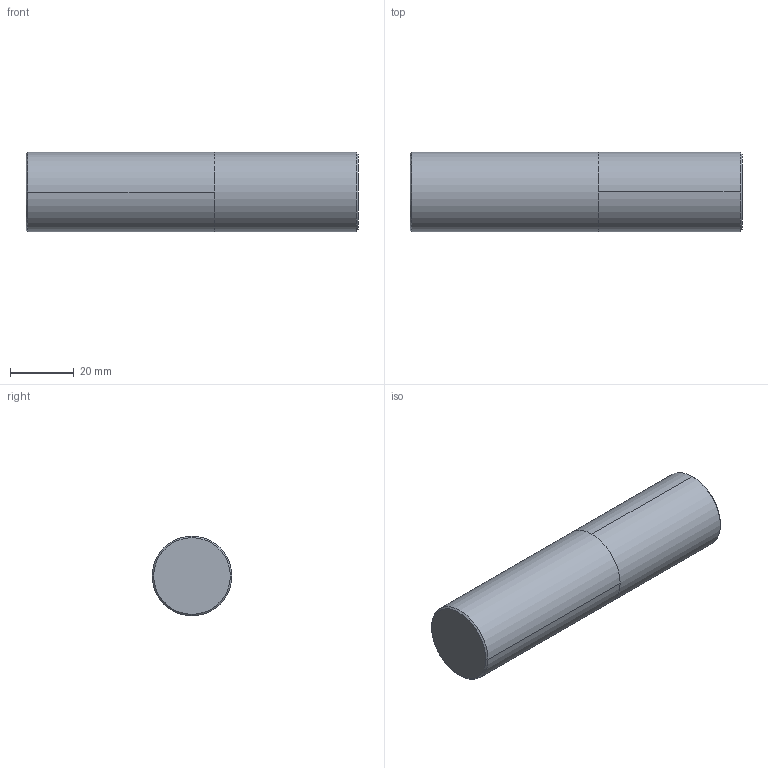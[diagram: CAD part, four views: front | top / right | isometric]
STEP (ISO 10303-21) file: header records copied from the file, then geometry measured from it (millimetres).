
FILE_DESCRIPTION (( 'STEP AP203' ), '1' );
FILE_NAME ('03-1561.STEP', '2021-10-18T01:58:27', ( 'USER' ), ( 'Hewlett-Packard Company' ), 'SwSTEP 2.0', 'SolidWorks 2014', '' );
FILE_SCHEMA (( 'CONFIG_CONTROL_DESIGN' ));
Length unit declared in the file: millimetre
Products named in the file (1): 03-1561
Bounding box: 104 x 25 x 25 mm (x, y, z)
Volume: 51027.3 mm3; surface area: 10080.2 mm2
Topology: 2 solids, 2 shells, 12 faces, 20 edges, 12 vertices
Faces by surface type: cylinder 4, cone 4, plane 4
Entity records: 359 total; most frequent: DIRECTION 58, CARTESIAN_POINT 45, ORIENTED_EDGE 40, AXIS2_PLACEMENT_3D 25, EDGE_CURVE 20, CIRCLE 12, ADVANCED_FACE 12, FACE_OUTER_BOUND 12
